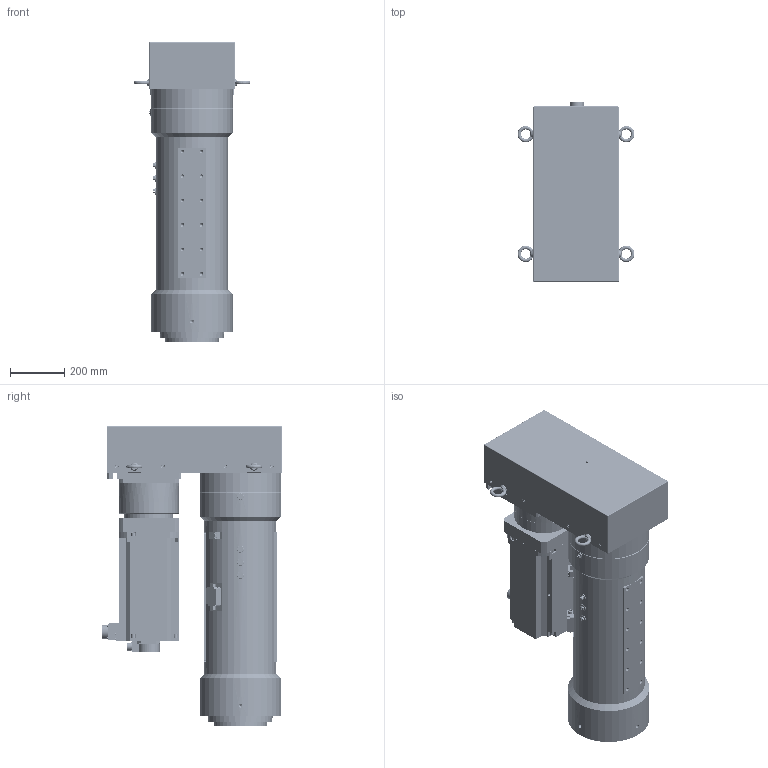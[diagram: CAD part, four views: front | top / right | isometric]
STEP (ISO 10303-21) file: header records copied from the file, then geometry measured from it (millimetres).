
FILE_DESCRIPTION( ('This file contains a STEP AP42 implementation' ,'as created by ZW3D STEP Interface translator.') ,'2;1' );
FILE_NAME( 'OACIS-DC-P500-400-075-J4V200_V20.51.stp' ,'26 5 7.142322', (''), ('ZWCAD Software Co.'), 'Version 1.0', 'ZW3D to STEP translator', '' );
FILE_SCHEMA(('AUTOMOTIVE_DESIGN { 1 0 10303 214 1 1 1 1 }'));
Length unit declared in the file: millimetre
Products named in the file (1): 0
Bounding box: 430 x 660.1 x 1101 mm (x, y, z)
Volume: 81850349 mm3; surface area: 6848356.5 mm2
Topology: 42 solids, 104 shells, 2081 faces, 5156 edges, 3297 vertices
Faces by surface type: cylinder 945, plane 765, cone 332, torus 30, sphere 8, bspline 1
Full cylindrical faces by diameter (mm): 3.3 x26, 4.2 x16, 4.3 x4, 4.5 x4, 5 x67, 5.8 x30, 6.4 x45, 6.8 x4, 8 x4, 8.4 x6, 8.5 x8, 8.6 x3, 9 x2, 10 x3, 10.106 x4, 10.5 x4, 11 x25, 12 x46, 13 x4, 14 x63, 15 x6, 16 x65, 16.5 x4, 17 x19, 17.294 x1, 17.5 x20, 18 x8, 23 x16, 25.4 x4, 26 x15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
Entity records: 76946 total; most frequent: CARTESIAN_POINT 24249, DIRECTION 10594, ORIENTED_EDGE 9906, EDGE_CURVE 5015, AXIS2_PLACEMENT_3D 4033, VERTEX_POINT 3296, EDGE_LOOP 2753, VECTOR 2528
